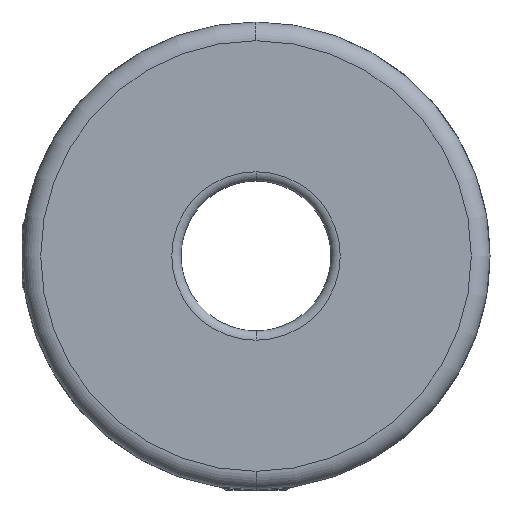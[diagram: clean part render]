
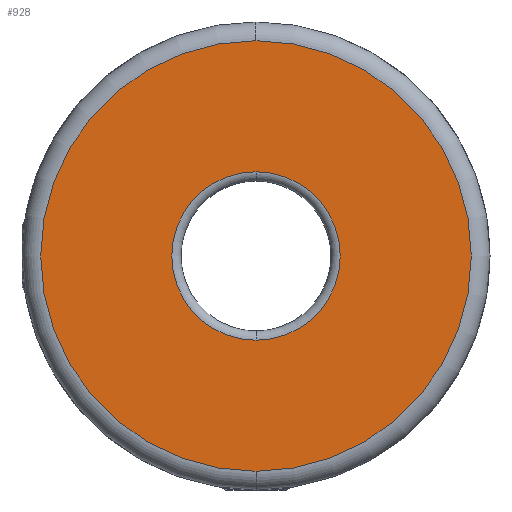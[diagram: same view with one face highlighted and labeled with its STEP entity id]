
A CAD part, left-side view. The second image highlights one B-rep face of the part: STEP entity #928.
In plain terms, the highlighted planar face has unit normal (-1, 0, 0).
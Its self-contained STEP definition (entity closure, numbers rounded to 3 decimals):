
#8 = DIRECTION ( 'NONE',  ( -1., 0., 0. ) ) ;
#21 = CARTESIAN_POINT ( 'NONE',  ( -15.5, 0., 0. ) ) ;
#26 = DIRECTION ( 'NONE',  ( -1., 0., 0. ) ) ;
#52 = CARTESIAN_POINT ( 'NONE',  ( -15.5, 0., 0. ) ) ;
#62 = DIRECTION ( 'NONE',  ( 0., 0., -1. ) ) ;
#123 = AXIS2_PLACEMENT_3D ( 'NONE', #960, #957, #950 ) ;
#163 = CARTESIAN_POINT ( 'NONE',  ( -15.5, 0., -11.5 ) ) ;
#164 = EDGE_CURVE ( 'NONE', #3445, #3471, #1795, .T. ) ;
#214 = CIRCLE ( 'NONE', #3114, 11.5 ) ;
#236 = CIRCLE ( 'NONE', #3176, 11.5 ) ;
#450 = DIRECTION ( 'NONE',  ( 0., 0., -1. ) ) ;
#467 = DIRECTION ( 'NONE',  ( 1., 0., 0. ) ) ;
#564 = CIRCLE ( 'NONE', #3377, 4.5 ) ;
#631 = CARTESIAN_POINT ( 'NONE',  ( -15.5, 0., 0. ) ) ;
#903 = ORIENTED_EDGE ( 'NONE', *, *, #1895, .T. ) ;
#928 = ADVANCED_FACE ( 'NONE', ( #1342, #1337 ), #2814, .F. ) ;
#950 = DIRECTION ( 'NONE',  ( 0., 0., -1. ) ) ;
#957 = DIRECTION ( 'NONE',  ( 1., 0., 0. ) ) ;
#960 = CARTESIAN_POINT ( 'NONE',  ( -15.5, 0., 0. ) ) ;
#972 = ORIENTED_EDGE ( 'NONE', *, *, #164, .T. ) ;
#1007 = ORIENTED_EDGE ( 'NONE', *, *, #2278, .T. ) ;
#1057 = ORIENTED_EDGE ( 'NONE', *, *, #2220, .T. ) ;
#1083 = DIRECTION ( 'NONE',  ( 0., 0., -1. ) ) ;
#1337 = FACE_OUTER_BOUND ( 'NONE', #2305, .T. ) ;
#1342 = FACE_BOUND ( 'NONE', #2540, .T. ) ;
#1795 = CIRCLE ( 'NONE', #123, 4.5 ) ;
#1895 = EDGE_CURVE ( 'NONE', #3471, #3445, #564, .T. ) ;
#2220 = EDGE_CURVE ( 'NONE', #3547, #3564, #236, .T. ) ;
#2278 = EDGE_CURVE ( 'NONE', #3564, #3547, #214, .T. ) ;
#2305 = EDGE_LOOP ( 'NONE', ( #1007, #1057 ) ) ;
#2540 = EDGE_LOOP ( 'NONE', ( #903, #972 ) ) ;
#2814 = PLANE ( 'NONE',  #4018 ) ;
#2906 = CARTESIAN_POINT ( 'NONE',  ( -15.5, 0., 4.5 ) ) ;
#3114 = AXIS2_PLACEMENT_3D ( 'NONE', #21, #8, #1083 ) ;
#3159 = DIRECTION ( 'NONE',  ( 1., 0., 0. ) ) ;
#3176 = AXIS2_PLACEMENT_3D ( 'NONE', #52, #26, #62 ) ;
#3199 = CARTESIAN_POINT ( 'NONE',  ( -15.5, 0., 0. ) ) ;
#3246 = CARTESIAN_POINT ( 'NONE',  ( -15.5, 0., 11.5 ) ) ;
#3377 = AXIS2_PLACEMENT_3D ( 'NONE', #631, #467, #450 ) ;
#3445 = VERTEX_POINT ( 'NONE', #2906 ) ;
#3471 = VERTEX_POINT ( 'NONE', #4239 ) ;
#3547 = VERTEX_POINT ( 'NONE', #3246 ) ;
#3564 = VERTEX_POINT ( 'NONE', #163 ) ;
#3725 = DIRECTION ( 'NONE',  ( 0., 0., -1. ) ) ;
#4018 = AXIS2_PLACEMENT_3D ( 'NONE', #3199, #3159, #3725 ) ;
#4239 = CARTESIAN_POINT ( 'NONE',  ( -15.5, 0., -4.5 ) ) ;
